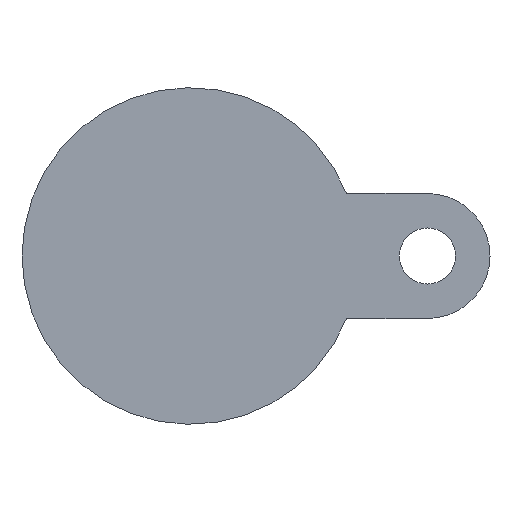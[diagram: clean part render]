
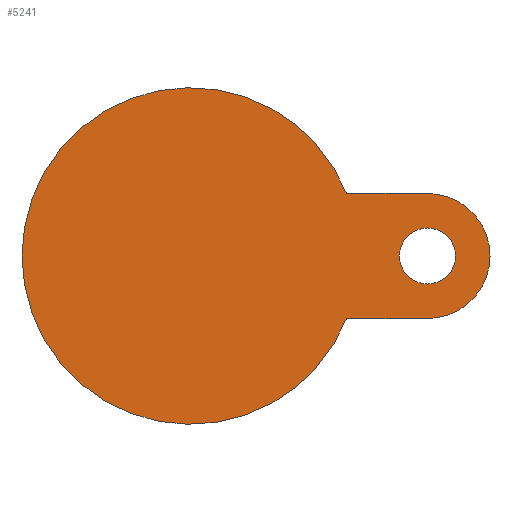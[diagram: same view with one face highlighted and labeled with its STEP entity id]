
A CAD part, front view. The second image highlights one B-rep face of the part: STEP entity #5241.
In plain terms, the highlighted planar face has unit normal (0, -1, 0).
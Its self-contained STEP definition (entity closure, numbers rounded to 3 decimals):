
#14 = ORIENTED_EDGE ( 'NONE', *, *, #1449, .T. ) ;
#29 = PLANE ( 'NONE',  #3278 ) ;
#240 = EDGE_CURVE ( 'NONE', #3975, #3219, #5141, .T. ) ;
#251 = CARTESIAN_POINT ( 'NONE',  ( 74., -25., 0. ) ) ;
#347 = VERTEX_POINT ( 'NONE', #5117 ) ;
#431 = EDGE_CURVE ( 'NONE', #3073, #3975, #2488, .T. ) ;
#611 = DIRECTION ( 'NONE',  ( 0., 1., 0. ) ) ;
#709 = ORIENTED_EDGE ( 'NONE', *, *, #5447, .F. ) ;
#754 = DIRECTION ( 'NONE',  ( 0., -1., 0. ) ) ;
#810 = FACE_BOUND ( 'NONE', #1870, .T. ) ;
#995 = EDGE_CURVE ( 'NONE', #1526, #2343, #5419, .T. ) ;
#1016 = ORIENTED_EDGE ( 'NONE', *, *, #1231, .T. ) ;
#1138 = CARTESIAN_POINT ( 'NONE',  ( 74., -25., 0. ) ) ;
#1166 = CARTESIAN_POINT ( 'NONE',  ( 74., -25., 19.5 ) ) ;
#1231 = EDGE_CURVE ( 'NONE', #3073, #1526, #5462, .T. ) ;
#1277 = VECTOR ( 'NONE', #2955, 1000. ) ;
#1309 = FACE_OUTER_BOUND ( 'NONE', #2034, .T. ) ;
#1321 = CARTESIAN_POINT ( 'NONE',  ( 74., -25., 0. ) ) ;
#1350 = DIRECTION ( 'NONE',  ( 0., -1., 0. ) ) ;
#1408 = CARTESIAN_POINT ( 'NONE',  ( 74., -25., -19.5 ) ) ;
#1449 = EDGE_CURVE ( 'NONE', #5356, #3219, #4153, .T. ) ;
#1506 = ORIENTED_EDGE ( 'NONE', *, *, #240, .F. ) ;
#1526 = VERTEX_POINT ( 'NONE', #1408 ) ;
#1726 = DIRECTION ( 'NONE',  ( 0., -1., 0. ) ) ;
#1870 = EDGE_LOOP ( 'NONE', ( #3810, #709 ) ) ;
#1914 = ORIENTED_EDGE ( 'NONE', *, *, #431, .F. ) ;
#2034 = EDGE_LOOP ( 'NONE', ( #14, #1506, #1914, #1016, #5282, #4748 ) ) ;
#2143 = AXIS2_PLACEMENT_3D ( 'NONE', #251, #2410, #3304 ) ;
#2186 = CARTESIAN_POINT ( 'NONE',  ( 93.5, -25., 0. ) ) ;
#2288 = DIRECTION ( 'NONE',  ( -1., 0., 0. ) ) ;
#2312 = AXIS2_PLACEMENT_3D ( 'NONE', #2654, #611, #3935 ) ;
#2343 = VERTEX_POINT ( 'NONE', #2186 ) ;
#2410 = DIRECTION ( 'NONE',  ( 0., -1., 0. ) ) ;
#2474 = CARTESIAN_POINT ( 'NONE',  ( 65.25, -25., 0. ) ) ;
#2488 = CIRCLE ( 'NONE', #2312, 52.5 ) ;
#2510 = CARTESIAN_POINT ( 'NONE',  ( 48.744, -25., 19.5 ) ) ;
#2589 = VERTEX_POINT ( 'NONE', #2474 ) ;
#2591 = DIRECTION ( 'NONE',  ( 1., 0., 0. ) ) ;
#2642 = CIRCLE ( 'NONE', #4767, 8.75 ) ;
#2654 = CARTESIAN_POINT ( 'NONE',  ( 0., -25., 0. ) ) ;
#2697 = EDGE_CURVE ( 'NONE', #2343, #5356, #3853, .T. ) ;
#2860 = DIRECTION ( 'NONE',  ( 1., 0., 0. ) ) ;
#2955 = DIRECTION ( 'NONE',  ( -1., 0., 0. ) ) ;
#2998 = CARTESIAN_POINT ( 'NONE',  ( 74., -25., -19.5 ) ) ;
#3073 = VERTEX_POINT ( 'NONE', #3247 ) ;
#3219 = VERTEX_POINT ( 'NONE', #2510 ) ;
#3242 = AXIS2_PLACEMENT_3D ( 'NONE', #1321, #1350, #2591 ) ;
#3247 = CARTESIAN_POINT ( 'NONE',  ( 48.744, -25., -19.5 ) ) ;
#3278 = AXIS2_PLACEMENT_3D ( 'NONE', #3753, #1726, #5069 ) ;
#3281 = DIRECTION ( 'NONE',  ( 0., -1., 0. ) ) ;
#3304 = DIRECTION ( 'NONE',  ( 1., 0., 0. ) ) ;
#3381 = CARTESIAN_POINT ( 'NONE',  ( -52.5, -25., 0. ) ) ;
#3589 = CARTESIAN_POINT ( 'NONE',  ( 74., -25., 0. ) ) ;
#3753 = CARTESIAN_POINT ( 'NONE',  ( 0., -25., 0. ) ) ;
#3810 = ORIENTED_EDGE ( 'NONE', *, *, #3995, .F. ) ;
#3825 = VECTOR ( 'NONE', #4710, 1000. ) ;
#3853 = CIRCLE ( 'NONE', #4563, 19.5 ) ;
#3935 = DIRECTION ( 'NONE',  ( -1., 0., 0. ) ) ;
#3975 = VERTEX_POINT ( 'NONE', #3381 ) ;
#3995 = EDGE_CURVE ( 'NONE', #347, #2589, #4997, .T. ) ;
#4153 = LINE ( 'NONE', #5028, #1277 ) ;
#4422 = CARTESIAN_POINT ( 'NONE',  ( 0., -25., 0. ) ) ;
#4563 = AXIS2_PLACEMENT_3D ( 'NONE', #3589, #754, #5385 ) ;
#4710 = DIRECTION ( 'NONE',  ( 1., 0., 0. ) ) ;
#4748 = ORIENTED_EDGE ( 'NONE', *, *, #2697, .T. ) ;
#4767 = AXIS2_PLACEMENT_3D ( 'NONE', #1138, #3281, #2860 ) ;
#4883 = DIRECTION ( 'NONE',  ( 0., 1., 0. ) ) ;
#4961 = AXIS2_PLACEMENT_3D ( 'NONE', #4422, #4883, #2288 ) ;
#4997 = CIRCLE ( 'NONE', #3242, 8.75 ) ;
#5028 = CARTESIAN_POINT ( 'NONE',  ( 42.597, -25., 19.5 ) ) ;
#5069 = DIRECTION ( 'NONE',  ( 1., 0., 0. ) ) ;
#5117 = CARTESIAN_POINT ( 'NONE',  ( 82.75, -25., 0. ) ) ;
#5141 = CIRCLE ( 'NONE', #4961, 52.5 ) ;
#5241 = ADVANCED_FACE ( 'NONE', ( #1309, #810 ), #29, .T. ) ;
#5282 = ORIENTED_EDGE ( 'NONE', *, *, #995, .T. ) ;
#5356 = VERTEX_POINT ( 'NONE', #1166 ) ;
#5385 = DIRECTION ( 'NONE',  ( 1., 0., 0. ) ) ;
#5419 = CIRCLE ( 'NONE', #2143, 19.5 ) ;
#5447 = EDGE_CURVE ( 'NONE', #2589, #347, #2642, .T. ) ;
#5462 = LINE ( 'NONE', #2998, #3825 ) ;
